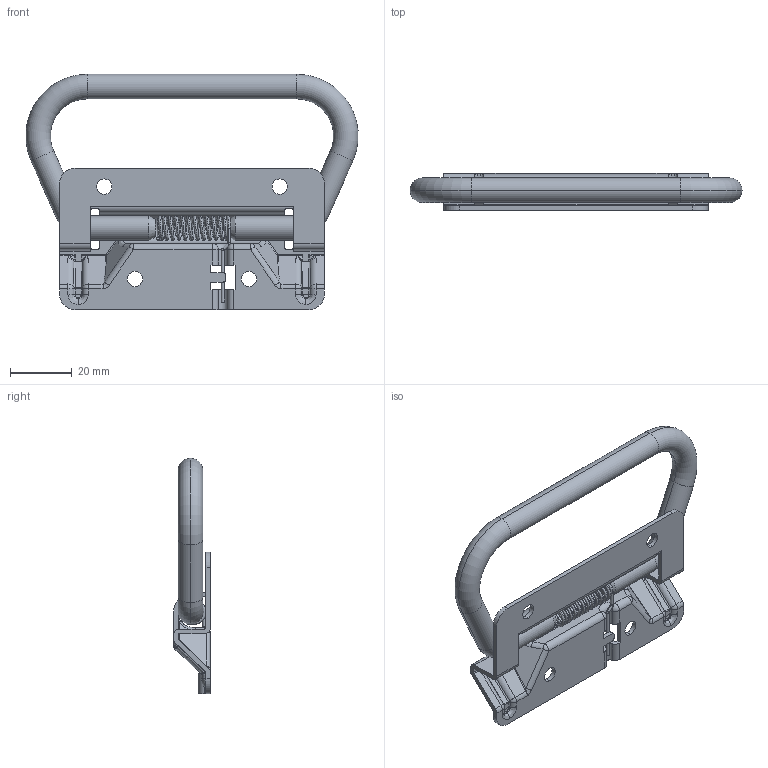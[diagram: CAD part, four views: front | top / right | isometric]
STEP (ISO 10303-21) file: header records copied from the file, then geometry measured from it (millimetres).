
FILE_DESCRIPTION (( 'STEP AP203' ), '1' );
FILE_NAME ('SK4-022-2S.STEP', '2018-11-02T05:14:41', ( 'admin' ), ( 'Microsoft' ), 'SwSTEP 2.0', 'SolidWorks 2015', '' );
FILE_SCHEMA (( 'CONFIG_CONTROL_DESIGN' ));
Length unit declared in the file: millimetre
Products named in the file (4): SK4-022-2S 減諶; SK4-022-2S粟銅; SK4-022-2S
Assembly tree (3 placements, depth 2):
  SK4-022-2S
    SK4-022-2S
    SK4-022-2S 減諶
    SK4-022-2S粟銅
Bounding box: 107.87 x 12 x 76.5 mm (x, y, z)
Volume: 19421.3 mm3; surface area: 17646.4 mm2
Topology: 3 solids, 3 shells, 432 faces, 1119 edges, 662 vertices
Faces by surface type: plane 144, cylinder 140, bspline 104, torus 24, sphere 16, cone 4
Entity records: 26984 total; most frequent: CARTESIAN_POINT 16950, ORIENTED_EDGE 2170, DIRECTION 1817, EDGE_CURVE 1085, VERTEX_POINT 662, AXIS2_PLACEMENT_3D 630, LINE 557, VECTOR 557
